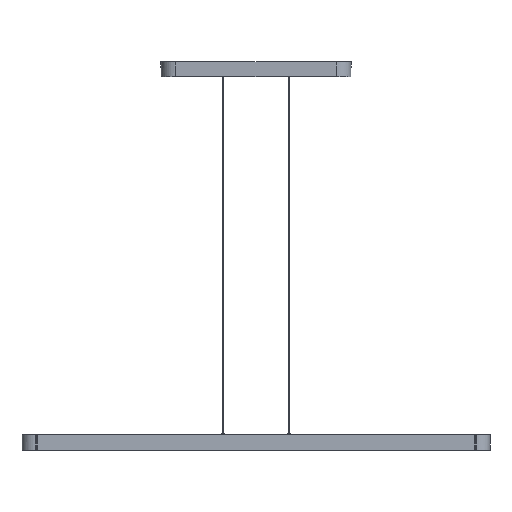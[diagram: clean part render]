
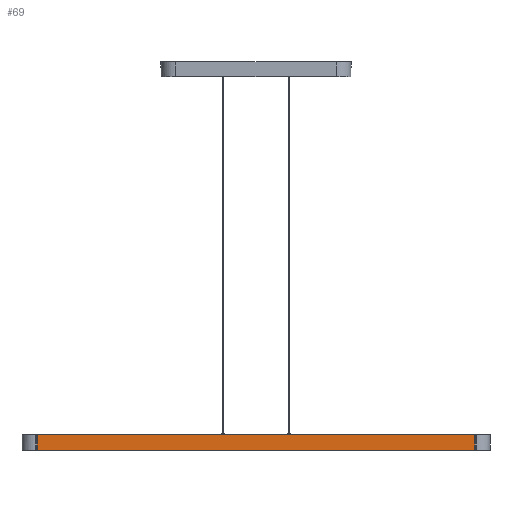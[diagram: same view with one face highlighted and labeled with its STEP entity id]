
A CAD part, front view. The second image highlights one B-rep face of the part: STEP entity #69.
In plain terms, the highlighted planar face has unit normal (0, -1, 0).
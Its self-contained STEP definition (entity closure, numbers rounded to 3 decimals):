
#69=ADVANCED_FACE($,(#191),#1564,.T.);
#191=FACE_OUTER_BOUND($,#315,.T.);
#315=EDGE_LOOP($,(#630,#631,#632,#633));
#630=ORIENTED_EDGE($,*,*,#1154,.F.);
#631=ORIENTED_EDGE($,*,*,#1103,.F.);
#632=ORIENTED_EDGE($,*,*,#1152,.T.);
#633=ORIENTED_EDGE($,*,*,#1119,.F.);
#1103=EDGE_CURVE($,#1391,#1392,#1849,.T.);
#1119=EDGE_CURVE($,#1406,#1407,#1865,.T.);
#1152=EDGE_CURVE($,#1391,#1407,#1893,.T.);
#1154=EDGE_CURVE($,#1392,#1406,#1894,.T.);
#1391=VERTEX_POINT($,#2945);
#1392=VERTEX_POINT($,#2946);
#1406=VERTEX_POINT($,#2960);
#1407=VERTEX_POINT($,#2961);
#1564=PLANE($,#2082);
#1849=B_SPLINE_CURVE_WITH_KNOTS($,1,(#2620,#2621),.UNSPECIFIED.,.F.,.F.,
(2,2),(-1127.,0.),.UNSPECIFIED.);
#1865=B_SPLINE_CURVE_WITH_KNOTS($,1,(#2708,#2709),.UNSPECIFIED.,.F.,.F.,
(2,2),(0.,1127.),.UNSPECIFIED.);
#1893=B_SPLINE_CURVE_WITH_KNOTS($,1,(#2830,#2831),.UNSPECIFIED.,.F.,.F.,
(2,2),(-40.,0.),.UNSPECIFIED.);
#1894=B_SPLINE_CURVE_WITH_KNOTS($,1,(#2834,#2835),.UNSPECIFIED.,.F.,.F.,
(2,2),(-40.,0.),.UNSPECIFIED.);
#2082=AXIS2_PLACEMENT_3D($,#2896,#2135,$);
#2135=DIRECTION($,(0.,-1.,0.));
#2620=CARTESIAN_POINT($,(563.5,-34.,-1000.));
#2621=CARTESIAN_POINT($,(-563.5,-34.,-1000.));
#2708=CARTESIAN_POINT($,(-563.5,-34.,-960.));
#2709=CARTESIAN_POINT($,(563.5,-34.,-960.));
#2830=CARTESIAN_POINT($,(563.5,-34.,-1000.));
#2831=CARTESIAN_POINT($,(563.5,-34.,-960.));
#2834=CARTESIAN_POINT($,(-563.5,-34.,-1000.));
#2835=CARTESIAN_POINT($,(-563.5,-34.,-960.));
#2896=CARTESIAN_POINT($,(563.5,-34.,-1000.));
#2945=CARTESIAN_POINT($,(563.5,-34.,-1000.));
#2946=CARTESIAN_POINT($,(-563.5,-34.,-1000.));
#2960=CARTESIAN_POINT($,(-563.5,-34.,-960.));
#2961=CARTESIAN_POINT($,(563.5,-34.,-960.));
